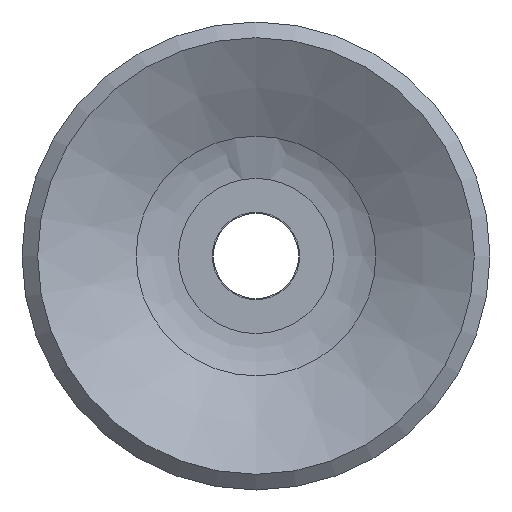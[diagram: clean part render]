
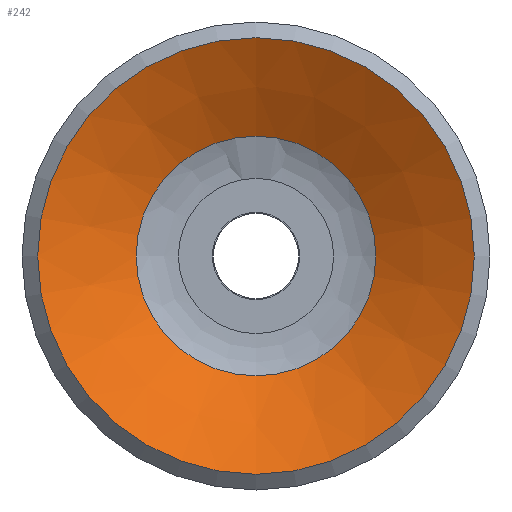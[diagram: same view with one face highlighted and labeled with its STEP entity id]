
A CAD part, front view. The second image highlights one B-rep face of the part: STEP entity #242.
In plain terms, the highlighted conical face has half-angle 61 degrees and reference radius 2.746 mm.
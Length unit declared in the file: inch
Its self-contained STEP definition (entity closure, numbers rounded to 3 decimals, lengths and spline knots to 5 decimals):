
#43 = DIRECTION ( 'NONE',  ( 0., 0., -1. ) ) ;
#113 = DIRECTION ( 'NONE',  ( 0., -1., 0. ) ) ;
#126 = CARTESIAN_POINT ( 'NONE',  ( 0., 0.04918, 0. ) ) ;
#141 = CIRCLE ( 'NONE', #271, 0.19685 ) ;
#191 = DIRECTION ( 'NONE',  ( 0., 0., -1. ) ) ;
#233 = DIRECTION ( 'NONE',  ( 0., -1., 0. ) ) ;
#237 = AXIS2_PLACEMENT_3D ( 'NONE', #1078, #113, #191 ) ;
#242 = ADVANCED_FACE ( 'NONE', ( #757, #1075 ), #552, .F. ) ;
#271 = AXIS2_PLACEMENT_3D ( 'NONE', #1116, #233, #940 ) ;
#293 = EDGE_LOOP ( 'NONE', ( #1024 ) ) ;
#344 = EDGE_CURVE ( 'NONE', #808, #808, #1059, .T. ) ;
#467 = CARTESIAN_POINT ( 'NONE',  ( 0., 0.04918, -0.10812 ) ) ;
#478 = ORIENTED_EDGE ( 'NONE', *, *, #344, .F. ) ;
#552 = CONICAL_SURFACE ( 'NONE', #237, 0.10812, 1.065 ) ;
#578 = DIRECTION ( 'NONE',  ( 0., -1., 0. ) ) ;
#691 = EDGE_CURVE ( 'NONE', #835, #835, #141, .T. ) ;
#717 = EDGE_LOOP ( 'NONE', ( #478 ) ) ;
#731 = CARTESIAN_POINT ( 'NONE',  ( 0., 0., -0.19685 ) ) ;
#757 = FACE_OUTER_BOUND ( 'NONE', #293, .T. ) ;
#787 = AXIS2_PLACEMENT_3D ( 'NONE', #126, #578, #43 ) ;
#808 = VERTEX_POINT ( 'NONE', #467 ) ;
#835 = VERTEX_POINT ( 'NONE', #731 ) ;
#940 = DIRECTION ( 'NONE',  ( 0., 0., -1. ) ) ;
#1024 = ORIENTED_EDGE ( 'NONE', *, *, #691, .T. ) ;
#1059 = CIRCLE ( 'NONE', #787, 0.10812 ) ;
#1075 = FACE_BOUND ( 'NONE', #717, .T. ) ;
#1078 = CARTESIAN_POINT ( 'NONE',  ( 0., 0.04918, 0. ) ) ;
#1116 = CARTESIAN_POINT ( 'NONE',  ( 0., 0., 0. ) ) ;
